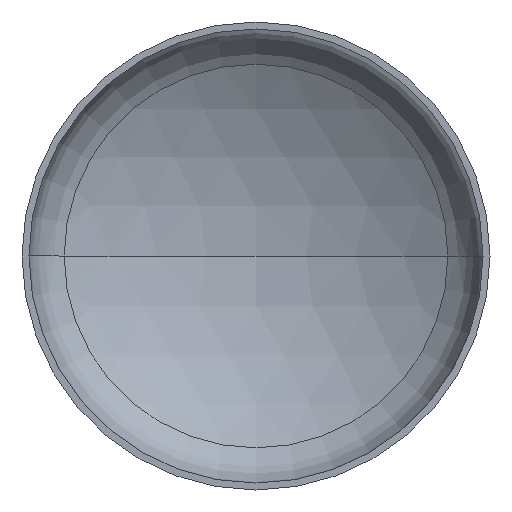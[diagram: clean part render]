
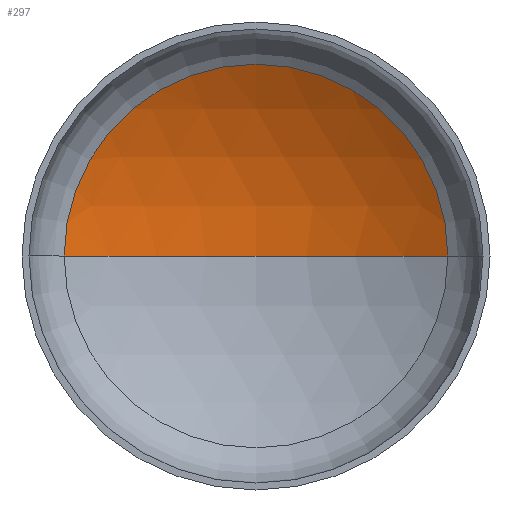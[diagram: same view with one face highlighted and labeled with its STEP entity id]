
A CAD part, front view. The second image highlights one B-rep face of the part: STEP entity #297.
In plain terms, the highlighted spherical face has radius 5600 mm.
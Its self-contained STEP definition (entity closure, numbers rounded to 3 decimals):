
#21 = AXIS2_PLACEMENT_3D ( 'NONE', #387, #400, #85 ) ;
#46 = SPHERICAL_SURFACE ( 'NONE', #21, 5600. ) ;
#49 = ORIENTED_EDGE ( 'NONE', *, *, #97, .T. ) ;
#56 = AXIS2_PLACEMENT_3D ( 'NONE', #288, #286, #216 ) ;
#57 = ORIENTED_EDGE ( 'NONE', *, *, #98, .T. ) ;
#58 = AXIS2_PLACEMENT_3D ( 'NONE', #283, #179, #191 ) ;
#63 = AXIS2_PLACEMENT_3D ( 'NONE', #305, #304, #299 ) ;
#85 = DIRECTION ( 'NONE',  ( -1., 0., 0. ) ) ;
#97 = EDGE_CURVE ( 'NONE', #126, #250, #231, .T. ) ;
#98 = EDGE_CURVE ( 'NONE', #178, #126, #402, .T. ) ;
#99 = EDGE_CURVE ( 'NONE', #178, #250, #394, .T. ) ;
#126 = VERTEX_POINT ( 'NONE', #198 ) ;
#129 = ORIENTED_EDGE ( 'NONE', *, *, #99, .F. ) ;
#154 = EDGE_LOOP ( 'NONE', ( #129, #57, #49 ) ) ;
#166 = CARTESIAN_POINT ( 'NONE',  ( -2869.381, 1002.453, 0. ) ) ;
#178 = VERTEX_POINT ( 'NONE', #239 ) ;
#179 = DIRECTION ( 'NONE',  ( 0., 0., -1. ) ) ;
#191 = DIRECTION ( 'NONE',  ( -1., 0., 0. ) ) ;
#192 = FACE_OUTER_BOUND ( 'NONE', #154, .T. ) ;
#198 = CARTESIAN_POINT ( 'NONE',  ( 2869.381, 1002.453, 0. ) ) ;
#216 = DIRECTION ( 'NONE',  ( 1., 0., 0. ) ) ;
#231 = CIRCLE ( 'NONE', #63, 2869.381 ) ;
#239 = CARTESIAN_POINT ( 'NONE',  ( 0., 1793.435, 0. ) ) ;
#250 = VERTEX_POINT ( 'NONE', #166 ) ;
#283 = CARTESIAN_POINT ( 'NONE',  ( 0., -3806.565, 0. ) ) ;
#286 = DIRECTION ( 'NONE',  ( 0., 0., 1. ) ) ;
#288 = CARTESIAN_POINT ( 'NONE',  ( 0., -3806.565, 0. ) ) ;
#297 = ADVANCED_FACE ( 'NONE', ( #192 ), #46, .F. ) ;
#299 = DIRECTION ( 'NONE',  ( 1., 0., 0. ) ) ;
#304 = DIRECTION ( 'NONE',  ( 0., -1., 0. ) ) ;
#305 = CARTESIAN_POINT ( 'NONE',  ( 0., 1002.453, 0. ) ) ;
#387 = CARTESIAN_POINT ( 'NONE',  ( 0., -3806.565, 0. ) ) ;
#394 = CIRCLE ( 'NONE', #56, 5600. ) ;
#400 = DIRECTION ( 'NONE',  ( 0., 0., -1. ) ) ;
#402 = CIRCLE ( 'NONE', #58, 5600. ) ;
